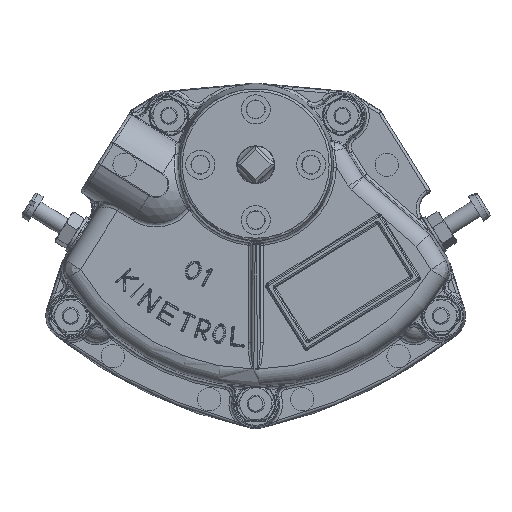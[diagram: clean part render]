
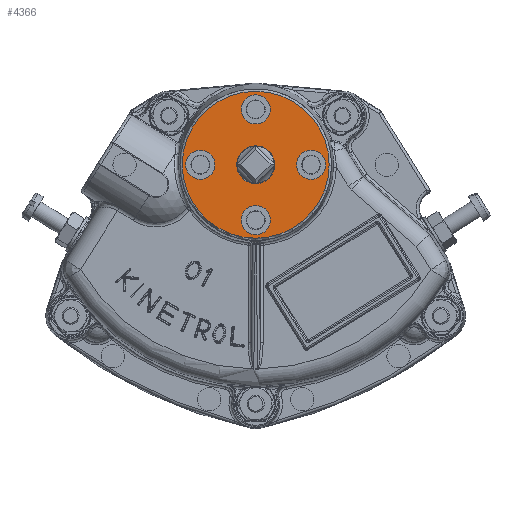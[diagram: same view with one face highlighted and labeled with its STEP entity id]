
A CAD part, top view. The second image highlights one B-rep face of the part: STEP entity #4366.
In plain terms, the highlighted planar face has unit normal (0, 0, 1).
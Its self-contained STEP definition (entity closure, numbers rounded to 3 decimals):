
#4366 = ADVANCED_FACE( '', ( #9014, #9015, #9016, #9017, #9018, #9019 ), #9020, .F. );
#9014 = FACE_BOUND( '', #30315, .T. );
#9015 = FACE_BOUND( '', #30316, .T. );
#9016 = FACE_OUTER_BOUND( '', #30317, .T. );
#9017 = FACE_BOUND( '', #30318, .T. );
#9018 = FACE_BOUND( '', #30319, .T. );
#9019 = FACE_BOUND( '', #30320, .T. );
#9020 = PLANE( '', #30321 );
#30315 = EDGE_LOOP( '', ( #43165 ) );
#30316 = EDGE_LOOP( '', ( #43166 ) );
#30317 = EDGE_LOOP( '', ( #43167 ) );
#30318 = EDGE_LOOP( '', ( #43168 ) );
#30319 = EDGE_LOOP( '', ( #43169 ) );
#30320 = EDGE_LOOP( '', ( #43170 ) );
#30321 = AXIS2_PLACEMENT_3D( '', #43171, #43172, #43173 );
#43165 = ORIENTED_EDGE( '', *, *, #47200, .T. );
#43166 = ORIENTED_EDGE( '', *, *, #45481, .T. );
#43167 = ORIENTED_EDGE( '', *, *, #44132, .T. );
#43168 = ORIENTED_EDGE( '', *, *, #46656, .T. );
#43169 = ORIENTED_EDGE( '', *, *, #45407, .T. );
#43170 = ORIENTED_EDGE( '', *, *, #47088, .T. );
#43171 = CARTESIAN_POINT( '', ( 0., 0., 19.368 ) );
#43172 = DIRECTION( '', ( 0., 0., -1. ) );
#43173 = DIRECTION( '', ( -1., 0., 0. ) );
#44132 = EDGE_CURVE( '', #49086, #49086, #49087, .F. );
#45407 = EDGE_CURVE( '', #51223, #51223, #51224, .T. );
#45481 = EDGE_CURVE( '', #51338, #51338, #51339, .T. );
#46656 = EDGE_CURVE( '', #53066, #53066, #53067, .T. );
#47088 = EDGE_CURVE( '', #53644, #53644, #53645, .T. );
#47200 = EDGE_CURVE( '', #53787, #53787, #53788, .T. );
#49086 = VERTEX_POINT( '', #56598 );
#49087 = CIRCLE( '', #56599, 12.605 );
#51223 = VERTEX_POINT( '', #62319 );
#51224 = CIRCLE( '', #62320, 2.5 );
#51338 = VERTEX_POINT( '', #62617 );
#51339 = CIRCLE( '', #62618, 2.5 );
#53066 = VERTEX_POINT( '', #67763 );
#53067 = CIRCLE( '', #67764, 3.25 );
#53644 = VERTEX_POINT( '', #69188 );
#53645 = CIRCLE( '', #69189, 2.5 );
#53787 = VERTEX_POINT( '', #69506 );
#53788 = CIRCLE( '', #69507, 2.5 );
#56598 = CARTESIAN_POINT( '', ( -12.605, 0., 19.368 ) );
#56599 = AXIS2_PLACEMENT_3D( '', #74381, #74382, #74383 );
#62319 = CARTESIAN_POINT( '', ( 2.5, -9.5, 19.368 ) );
#62320 = AXIS2_PLACEMENT_3D( '', #76285, #76286, #76287 );
#62617 = CARTESIAN_POINT( '', ( -7., 0., 19.368 ) );
#62618 = AXIS2_PLACEMENT_3D( '', #76410, #76411, #76412 );
#67763 = CARTESIAN_POINT( '', ( -3.25, 0., 19.368 ) );
#67764 = AXIS2_PLACEMENT_3D( '', #77981, #77982, #77983 );
#69188 = CARTESIAN_POINT( '', ( 2.5, 9.5, 19.368 ) );
#69189 = AXIS2_PLACEMENT_3D( '', #78554, #78555, #78556 );
#69506 = CARTESIAN_POINT( '', ( 12., 0., 19.368 ) );
#69507 = AXIS2_PLACEMENT_3D( '', #78703, #78704, #78705 );
#74381 = CARTESIAN_POINT( '', ( 0., 0., 19.368 ) );
#74382 = DIRECTION( '', ( 0., 0., -1. ) );
#74383 = DIRECTION( '', ( -1., 0., 0. ) );
#76285 = CARTESIAN_POINT( '', ( 0., -9.5, 19.368 ) );
#76286 = DIRECTION( '', ( 0., 0., -1. ) );
#76287 = DIRECTION( '', ( 1., 0., 0. ) );
#76410 = CARTESIAN_POINT( '', ( -9.5, 0., 19.368 ) );
#76411 = DIRECTION( '', ( 0., 0., -1. ) );
#76412 = DIRECTION( '', ( 1., 0., 0. ) );
#77981 = CARTESIAN_POINT( '', ( 0., 0., 19.368 ) );
#77982 = DIRECTION( '', ( 0., 0., -1. ) );
#77983 = DIRECTION( '', ( -1., 0., 0. ) );
#78554 = CARTESIAN_POINT( '', ( 0., 9.5, 19.368 ) );
#78555 = DIRECTION( '', ( 0., 0., -1. ) );
#78556 = DIRECTION( '', ( 1., 0., 0. ) );
#78703 = CARTESIAN_POINT( '', ( 9.5, 0., 19.368 ) );
#78704 = DIRECTION( '', ( 0., 0., -1. ) );
#78705 = DIRECTION( '', ( 1., 0., 0. ) );
